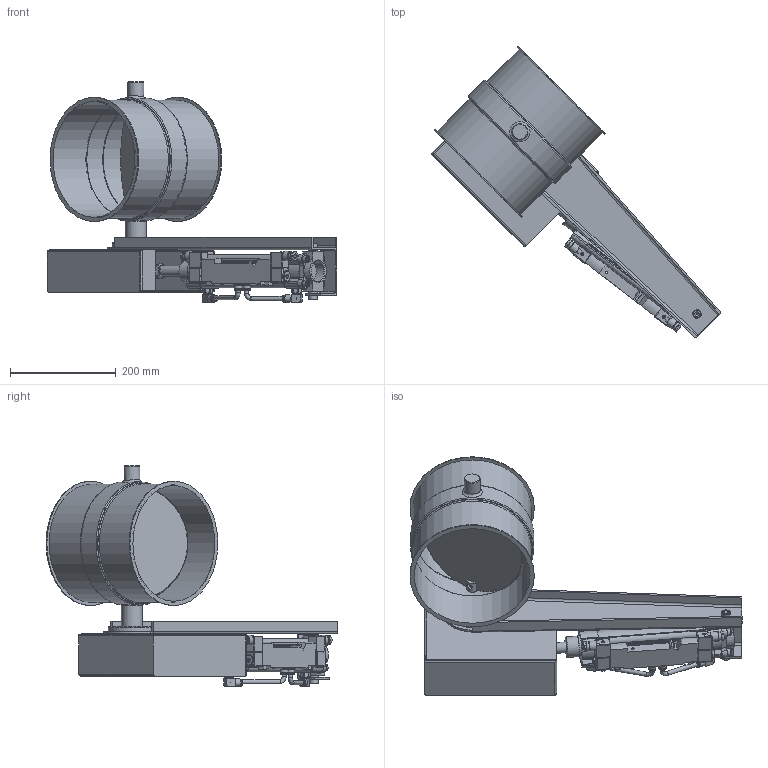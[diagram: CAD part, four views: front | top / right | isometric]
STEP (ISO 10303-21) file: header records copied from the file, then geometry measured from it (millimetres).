
FILE_DESCRIPTION((''),'2;1');
FILE_NAME('U:\Wolfgang\Marcel-3D\fertig\Kapitel 8\2221210.stp','2012-01-13T11:11:47',('iwienholt'),(''),'Autodesk Inventor 2010','Autodesk Inventor 2010','');
FILE_SCHEMA(('AUTOMOTIVE_DESIGN { 1 0 10303 214 1 1 1 1 }'));
Length unit declared in the file: millimetre
Products named in the file (33): 2221210; BuchseD20 90-50; Bolzen D20; Scheibe224b; F1 Zylindereinheit d20; 4527_MSFG_24_42_50_60_6_0; 4527_MSFG_24_42_50_60_6_01; 4527_MSFG_24_42_50_60_6_02; 537600_VUVB_S_B42_ZD_Q8_3AC1_6_0; 537600_VUVB_S_B42_ZD_Q8_3AC1_6_01; 537600_VUVB_S_B42_ZD_Q8_3AC1_6_02; 537600_VUVB_S_B42_ZD_Q8_3AC1_6_03; 153414_QSRL_1_4_8_6_0; schlauch; Schutzkasten; Kasten-a; Kasten-b; 532756_DNCB_50_160_PPV_A_6_0; 532756_DNCB_50_160_PPV_A_6_01; 532756_DNCB_50_160_PPV_A_6_02; 6146_SG_M16x15_6_0; 6146_SG_M16x15_6_01; 6146_SG_M16x15_6_02; 174413_ZNCF_50_6_0; 174413_ZNCF_50_6_01; 174413_ZNCF_50_6_02; 174413_ZNCF_50_6_03; 174413_ZNCF_50_6_04; 174413_ZNCF_50_6_05; 0021088 d20; Strebe d20; Bolzen20; 2221210-1
Assembly tree (36 placements, depth 4):
  2221210
    BuchseD20 90-50
    Bolzen D20  x2
    Scheibe224b
    F1 Zylindereinheit d20
      4527_MSFG_24_42_50_60_6_0  x2
        4527_MSFG_24_42_50_60_6_01
        4527_MSFG_24_42_50_60_6_02
      537600_VUVB_S_B42_ZD_Q8_3AC1_6_0
        537600_VUVB_S_B42_ZD_Q8_3AC1_6_01
        537600_VUVB_S_B42_ZD_Q8_3AC1_6_02
        537600_VUVB_S_B42_ZD_Q8_3AC1_6_03
      153414_QSRL_1_4_8_6_0  x2
      schlauch  x2
      Schutzkasten
        Kasten-a
        Kasten-b
      532756_DNCB_50_160_PPV_A_6_0
        532756_DNCB_50_160_PPV_A_6_01
        532756_DNCB_50_160_PPV_A_6_02
      6146_SG_M16x15_6_0
        6146_SG_M16x15_6_01
        6146_SG_M16x15_6_02
      174413_ZNCF_50_6_0
        174413_ZNCF_50_6_01
        174413_ZNCF_50_6_02
        174413_ZNCF_50_6_03
        174413_ZNCF_50_6_04
        174413_ZNCF_50_6_05
      0021088 d20
      Strebe d20
      Bolzen20
    2221210-1
Bounding box: 548.01 x 551.54 x 417.27 mm (x, y, z)
Volume: 2349680.5 mm3; surface area: 1209074.8 mm2
Topology: 30 solids, 30 shells, 2528 faces, 6777 edges, 4426 vertices
Faces by surface type: plane 1901, cylinder 434, cone 146, bspline 31, torus 14, sphere 2
Full cylindrical faces by diameter (mm): 1 x6, 2.459 x2, 3 x4, 3.5 x2, 4 x2, 4.5 x1, 5 x4, 5.471 x2, 5.5 x2, 6 x16, 6.647 x8, 7.188 x2, 8 x22, 8.05 x2, 9 x6, 9.6 x2, 10 x2, 10.15 x2, 11.445 x2, 12 x2, 13 x4, 13.05 x2, 13.157 x2, 13.346 x1, 14 x6, 14.376 x2, 14.4 x4, 14.5 x2, 14.7 x6, 15.1 x2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
Entity records: 72879 total; most frequent: CARTESIAN_POINT 14189, ORIENTED_EDGE 11722, DIRECTION 11272, EDGE_CURVE 5861, VECTOR 4782, LINE 4782, VERTEX_POINT 3979, EDGE_LOOP 3282
